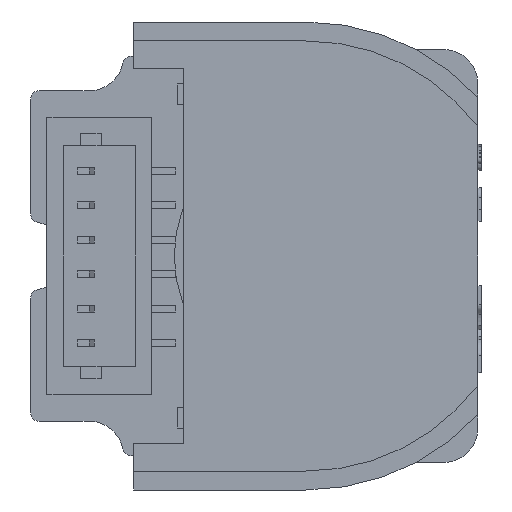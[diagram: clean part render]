
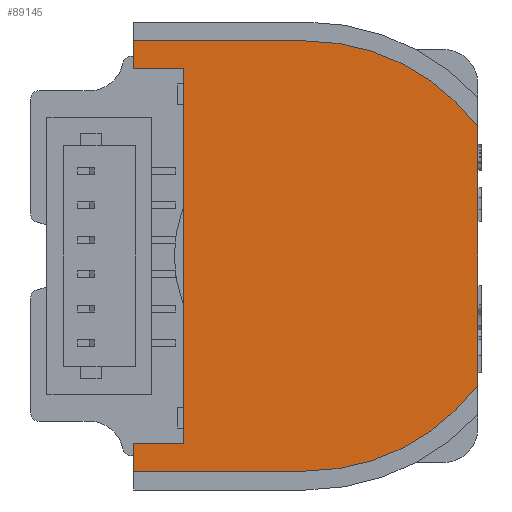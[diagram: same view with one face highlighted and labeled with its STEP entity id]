
A CAD part, left-side view. The second image highlights one B-rep face of the part: STEP entity #89145.
In plain terms, the highlighted planar face has unit normal (-1, 0, 0).
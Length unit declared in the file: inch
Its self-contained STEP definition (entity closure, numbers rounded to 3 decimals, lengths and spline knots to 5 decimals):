
#5025 = ORIENTED_EDGE ( 'NONE', *, *, #128213, .T. ) ;
#8781 = CARTESIAN_POINT ( 'NONE',  ( -0.16142, 0.19685, -0.24606 ) ) ;
#13616 = DIRECTION ( 'NONE',  ( -1., 0., 0. ) ) ;
#13648 = CARTESIAN_POINT ( 'NONE',  ( -0.16142, 0.19685, 0.23622 ) ) ;
#15641 = VERTEX_POINT ( 'NONE', #101965 ) ;
#17640 = EDGE_CURVE ( 'NONE', #156102, #15641, #156145, .T. ) ;
#19086 = DIRECTION ( 'NONE',  ( 0., 1., 0. ) ) ;
#23467 = CARTESIAN_POINT ( 'NONE',  ( -0.16142, -0.19685, -0.14764 ) ) ;
#26416 = VECTOR ( 'NONE', #30047, 39.37008 ) ;
#27708 = EDGE_CURVE ( 'NONE', #178904, #133561, #200877, .T. ) ;
#29339 = EDGE_CURVE ( 'NONE', #133561, #61317, #83723, .T. ) ;
#30047 = DIRECTION ( 'NONE',  ( 0., 1., 0. ) ) ;
#37662 = DIRECTION ( 'NONE',  ( 0., 0., -1. ) ) ;
#38136 = LINE ( 'NONE', #149007, #127703 ) ;
#38676 = CARTESIAN_POINT ( 'NONE',  ( -0.16142, 0.13976, 0.21457 ) ) ;
#38790 = FACE_OUTER_BOUND ( 'NONE', #123612, .T. ) ;
#40823 = CARTESIAN_POINT ( 'NONE',  ( -0.16142, 0., 0. ) ) ;
#45712 = ORIENTED_EDGE ( 'NONE', *, *, #149068, .T. ) ;
#50801 = EDGE_CURVE ( 'NONE', #65686, #184561, #127689, .T. ) ;
#51924 = AXIS2_PLACEMENT_3D ( 'NONE', #113330, #81953, #110254 ) ;
#56495 = CARTESIAN_POINT ( 'NONE',  ( -0.16142, 0., -0.24606 ) ) ;
#60139 = CARTESIAN_POINT ( 'NONE',  ( -0.16142, 0.19685, 0.21457 ) ) ;
#61317 = VERTEX_POINT ( 'NONE', #56495 ) ;
#63479 = EDGE_CURVE ( 'NONE', #61317, #192651, #75307, .T. ) ;
#65686 = VERTEX_POINT ( 'NONE', #159724 ) ;
#68166 = DIRECTION ( 'NONE',  ( 0., -1., 0. ) ) ;
#72515 = VECTOR ( 'NONE', #37662, 39.37008 ) ;
#73741 = DIRECTION ( 'NONE',  ( 0., -1., 0. ) ) ;
#75307 = CIRCLE ( 'NONE', #51924, 0.24606 ) ;
#77271 = DIRECTION ( 'NONE',  ( 0., 0., -1. ) ) ;
#78768 = VECTOR ( 'NONE', #19086, 39.37008 ) ;
#81116 = ORIENTED_EDGE ( 'NONE', *, *, #27708, .T. ) ;
#81903 = CARTESIAN_POINT ( 'NONE',  ( -0.16142, 0.13976, -0.21457 ) ) ;
#81953 = DIRECTION ( 'NONE',  ( -1., 0., 0. ) ) ;
#83723 = LINE ( 'NONE', #165457, #179214 ) ;
#86749 = PLANE ( 'NONE',  #197495 ) ;
#89145 = ADVANCED_FACE ( 'NONE', ( #38790 ), #86749, .T. ) ;
#93327 = VECTOR ( 'NONE', #94339, 39.37008 ) ;
#94339 = DIRECTION ( 'NONE',  ( 0., 0., -1. ) ) ;
#98404 = CARTESIAN_POINT ( 'NONE',  ( -0.16142, 0.19685, 0.24606 ) ) ;
#101965 = CARTESIAN_POINT ( 'NONE',  ( -0.16142, 0.19685, 0.21457 ) ) ;
#104391 = EDGE_CURVE ( 'NONE', #107763, #178904, #109343, .T. ) ;
#106228 = CARTESIAN_POINT ( 'NONE',  ( -0.16142, 0.13976, -0.21457 ) ) ;
#107763 = VERTEX_POINT ( 'NONE', #81903 ) ;
#107808 = CARTESIAN_POINT ( 'NONE',  ( -0.16142, 0., 0. ) ) ;
#109343 = LINE ( 'NONE', #106228, #26416 ) ;
#110254 = DIRECTION ( 'NONE',  ( 0., 0., 1. ) ) ;
#110519 = CARTESIAN_POINT ( 'NONE',  ( -0.16142, 0., 0.24606 ) ) ;
#113330 = CARTESIAN_POINT ( 'NONE',  ( -0.16142, 0., 0. ) ) ;
#114279 = AXIS2_PLACEMENT_3D ( 'NONE', #107808, #125664, #158123 ) ;
#117955 = VECTOR ( 'NONE', #77271, 39.37008 ) ;
#119265 = LINE ( 'NONE', #98404, #78768 ) ;
#122312 = ORIENTED_EDGE ( 'NONE', *, *, #29339, .T. ) ;
#123612 = EDGE_LOOP ( 'NONE', ( #142680, #45712, #175590, #81116, #122312, #140790, #149806, #164524, #5025, #133398 ) ) ;
#124935 = EDGE_CURVE ( 'NONE', #192651, #65686, #38136, .T. ) ;
#125255 = CARTESIAN_POINT ( 'NONE',  ( -0.16142, 0.13976, 0.21457 ) ) ;
#125664 = DIRECTION ( 'NONE',  ( -1., 0., 0. ) ) ;
#127689 = CIRCLE ( 'NONE', #114279, 0.24606 ) ;
#127703 = VECTOR ( 'NONE', #198114, 39.37008 ) ;
#128213 = EDGE_CURVE ( 'NONE', #184561, #156102, #119265, .T. ) ;
#133398 = ORIENTED_EDGE ( 'NONE', *, *, #17640, .T. ) ;
#133561 = VERTEX_POINT ( 'NONE', #8781 ) ;
#136270 = CARTESIAN_POINT ( 'NONE',  ( -0.16142, 0.19685, 0.24606 ) ) ;
#137021 = DIRECTION ( 'NONE',  ( 0., 0., 1. ) ) ;
#140790 = ORIENTED_EDGE ( 'NONE', *, *, #63479, .T. ) ;
#141477 = CARTESIAN_POINT ( 'NONE',  ( -0.16142, 0.19685, 0.23622 ) ) ;
#142680 = ORIENTED_EDGE ( 'NONE', *, *, #172865, .T. ) ;
#149007 = CARTESIAN_POINT ( 'NONE',  ( -0.16142, -0.19685, 0.13674 ) ) ;
#149068 = EDGE_CURVE ( 'NONE', #153050, #107763, #180936, .T. ) ;
#149806 = ORIENTED_EDGE ( 'NONE', *, *, #124935, .T. ) ;
#153050 = VERTEX_POINT ( 'NONE', #125255 ) ;
#156102 = VERTEX_POINT ( 'NONE', #136270 ) ;
#156145 = LINE ( 'NONE', #141477, #93327 ) ;
#158123 = DIRECTION ( 'NONE',  ( 0., 0., 1. ) ) ;
#159724 = CARTESIAN_POINT ( 'NONE',  ( -0.16142, -0.19685, 0.14764 ) ) ;
#160217 = CARTESIAN_POINT ( 'NONE',  ( -0.16142, 0.19685, -0.21457 ) ) ;
#164524 = ORIENTED_EDGE ( 'NONE', *, *, #50801, .T. ) ;
#165457 = CARTESIAN_POINT ( 'NONE',  ( -0.16142, 0., -0.24606 ) ) ;
#172865 = EDGE_CURVE ( 'NONE', #15641, #153050, #188884, .T. ) ;
#173435 = VECTOR ( 'NONE', #73741, 39.37008 ) ;
#175590 = ORIENTED_EDGE ( 'NONE', *, *, #104391, .T. ) ;
#178904 = VERTEX_POINT ( 'NONE', #160217 ) ;
#179214 = VECTOR ( 'NONE', #68166, 39.37008 ) ;
#180936 = LINE ( 'NONE', #38676, #72515 ) ;
#184561 = VERTEX_POINT ( 'NONE', #110519 ) ;
#188884 = LINE ( 'NONE', #60139, #173435 ) ;
#192651 = VERTEX_POINT ( 'NONE', #23467 ) ;
#197495 = AXIS2_PLACEMENT_3D ( 'NONE', #40823, #13616, #137021 ) ;
#198114 = DIRECTION ( 'NONE',  ( 0., 0., 1. ) ) ;
#200877 = LINE ( 'NONE', #13648, #117955 ) ;
